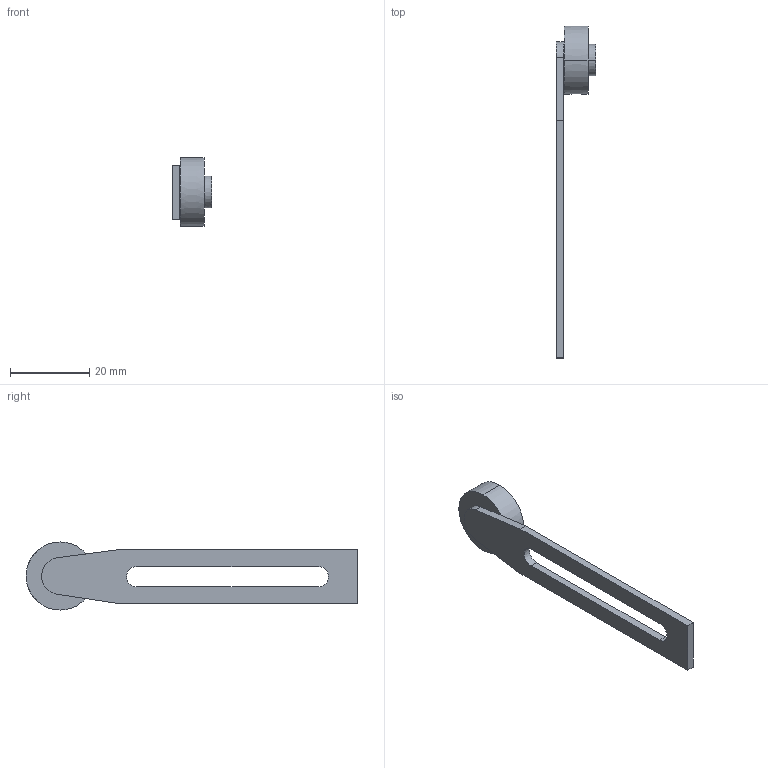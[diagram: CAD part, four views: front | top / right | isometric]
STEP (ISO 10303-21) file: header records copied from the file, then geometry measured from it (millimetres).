
FILE_DESCRIPTION((''),'2;1');
FILE_NAME('440PC_ADJ_LEVER_LEVER','2013-02-05T',('Administrator'),(''),'PRO/ENGINEER BY PARAMETRIC TECHNOLOGY CORPORATION, 2006010','PRO/ENGINEER BY PARAMETRIC TECHNOLOGY CORPORATION, 2006010','');
FILE_SCHEMA(('CONFIG_CONTROL_DESIGN'));
Length unit declared in the file: millimetre
Products named in the file (1): 440PC_ADJ_LEVER_LEVER
Bounding box: 10.07 x 83.94 x 17.23 mm (x, y, z)
Surface area: 2866.7 mm2 (no closed solid volume)
Topology: 0 solids, 0 shells, 21 faces, 138 edges, 174 vertices
Faces by surface type: bspline 21
Entity records: 2271 total; most frequent: CARTESIAN_POINT 1142, DIRECTION 200, TRIMMED_CURVE 168, VECTOR 138, LINE 138, DEFINITIONAL_REPRESENTATION 96, PCURVE 96, COMPOSITE_CURVE_SEGMENT 96
